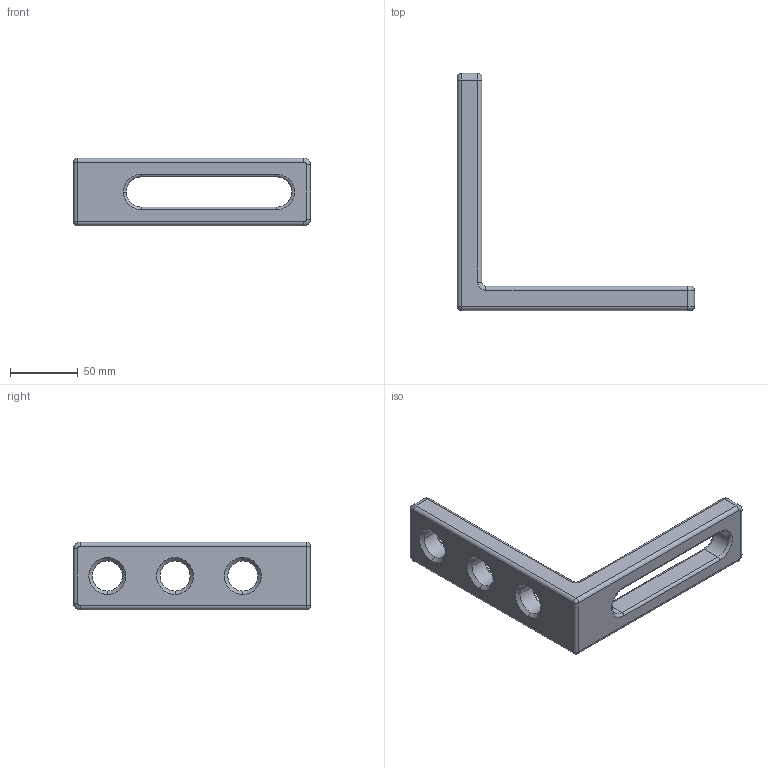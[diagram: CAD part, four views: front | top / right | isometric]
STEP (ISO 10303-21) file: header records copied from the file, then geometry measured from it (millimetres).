
FILE_DESCRIPTION (( 'STEP AP203' ), '1' );
FILE_NAME ('220110.STEP', '2020-03-02T09:49:57', ( '' ), ( '' ), 'SwSTEP 2.0', 'SolidWorks 2019', '' );
FILE_SCHEMA (( 'CONFIG_CONTROL_DESIGN' ));
Length unit declared in the file: millimetre
Products named in the file (1): 220110
Bounding box: 175 x 175 x 50 mm (x, y, z)
Volume: 226037.3 mm3; surface area: 44754.7 mm2
Topology: 1 solids, 1 shells, 70 faces, 172 edges, 102 vertices
Faces by surface type: cylinder 30, torus 16, cone 12, plane 10, sphere 2
Entity records: 2159 total; most frequent: DIRECTION 416, CARTESIAN_POINT 343, ORIENTED_EDGE 340, AXIS2_PLACEMENT_3D 175, EDGE_CURVE 170, CIRCLE 104, VERTEX_POINT 102, EDGE_LOOP 78
